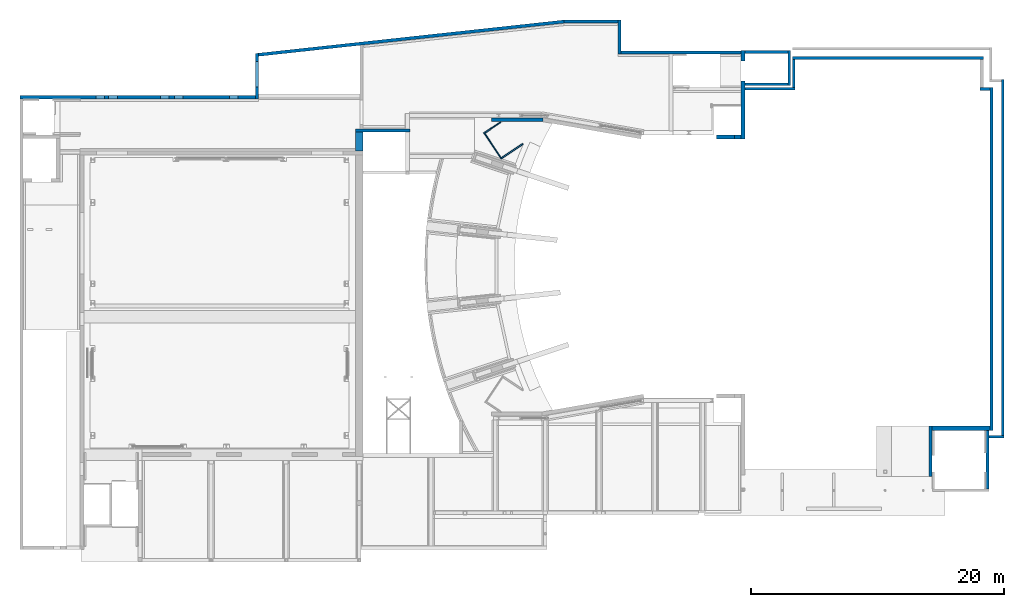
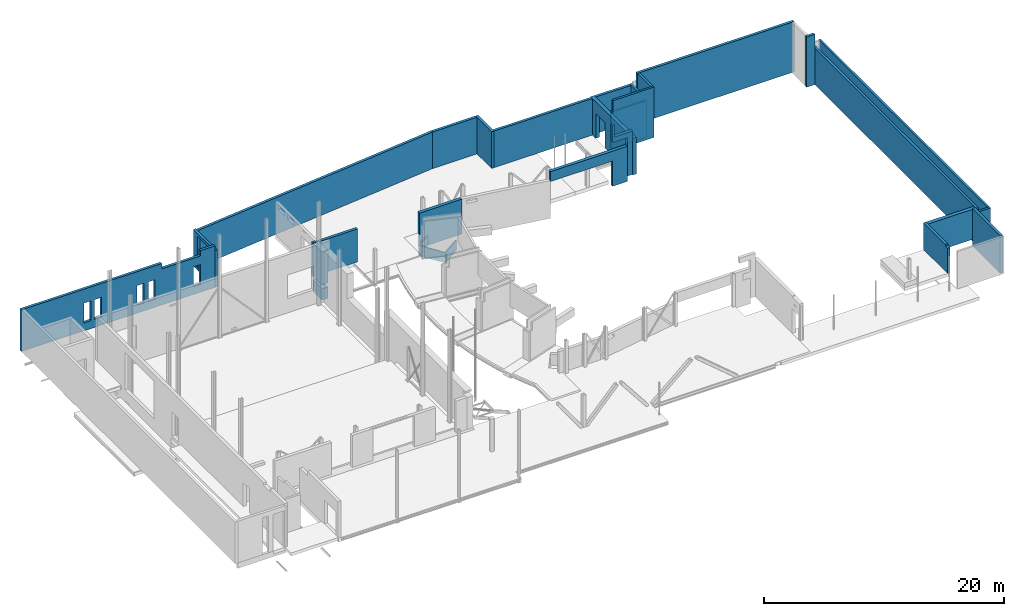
# One storey, part 28 of 37: 29 walls, 16 openings.
"""IFC2X3 building model written with IfcOpenShell, lengths in millimetres."""

from ifc_helpers import new_model, entity, si_unit, converted_unit, derived_unit, direction, frame, frame_2d, origin, origin_2d_with_axis, place, context, subcontext, project, spatial, polyline, rectangle, outline, extrude, clip, bounded_halfspace, material, layer, layer_set, layer_usage, type_object, element, save


model = new_model("IFC2X3")

# Units and contexts
model_context = context("Model", 3, precision=0.01, world=origin(), true_north=direction((6.12303176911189e-17, 1.0)))
body_context = subcontext(model_context, "Body", "Model", "MODEL_VIEW")
ifc_project = project(units=[si_unit("LENGTHUNIT", "METRE", prefix="MILLI"), si_unit("AREAUNIT", "SQUARE_METRE", prefix="MILLI"), si_unit("VOLUMEUNIT", "CUBIC_METRE"), converted_unit("PLANEANGLEUNIT", "DEGREE", entity("IfcRatioMeasure", 0.0174532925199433), si_unit("PLANEANGLEUNIT", "RADIAN"), dimensions=[0, 0, 0, 0, 0, 0, 0]), si_unit("MASSUNIT", "GRAM", prefix="KILO"), derived_unit("MASSDENSITYUNIT", [(si_unit("MASSUNIT", "GRAM", prefix="KILO"), 1), (si_unit("LENGTHUNIT", "METRE"), -3)]), derived_unit("MOMENTOFINERTIAUNIT", [(si_unit("LENGTHUNIT", "METRE"), 4)]), si_unit("TIMEUNIT", "SECOND"), si_unit("FREQUENCYUNIT", "HERTZ"), si_unit("THERMODYNAMICTEMPERATUREUNIT", "DEGREE_CELSIUS"), derived_unit("THERMALTRANSMITTANCEUNIT", [(si_unit("MASSUNIT", "GRAM", prefix="KILO"), 1), (si_unit("THERMODYNAMICTEMPERATUREUNIT", "KELVIN"), -1), (si_unit("TIMEUNIT", "SECOND"), -3)]), derived_unit("VOLUMETRICFLOWRATEUNIT", [(si_unit("LENGTHUNIT", "METRE"), 3), (si_unit("TIMEUNIT", "SECOND"), -1)]), si_unit("ELECTRICCURRENTUNIT", "AMPERE"), si_unit("ELECTRICVOLTAGEUNIT", "VOLT"), si_unit("POWERUNIT", "WATT"), si_unit("FORCEUNIT", "NEWTON", prefix="KILO"), si_unit("ILLUMINANCEUNIT", "LUX"), si_unit("LUMINOUSFLUXUNIT", "LUMEN"), si_unit("LUMINOUSINTENSITYUNIT", "CANDELA"), derived_unit("USERDEFINED", [(si_unit("MASSUNIT", "GRAM", prefix="KILO"), -1), (si_unit("LENGTHUNIT", "METRE"), -2), (si_unit("TIMEUNIT", "SECOND"), 3), (si_unit("LUMINOUSFLUXUNIT", "LUMEN"), 1)]), derived_unit("LINEARVELOCITYUNIT", [(si_unit("LENGTHUNIT", "METRE"), 1), (si_unit("TIMEUNIT", "SECOND"), -1)]), si_unit("PRESSUREUNIT", "PASCAL"), derived_unit("USERDEFINED", [(si_unit("LENGTHUNIT", "METRE"), -2), (si_unit("MASSUNIT", "GRAM", prefix="KILO"), 1), (si_unit("TIMEUNIT", "SECOND"), -2)]), derived_unit("LINEARFORCEUNIT", [(si_unit("MASSUNIT", "GRAM", prefix="KILO"), 1), (si_unit("LENGTHUNIT", "METRE"), 1), (si_unit("TIMEUNIT", "SECOND"), -2), (si_unit("LENGTHUNIT", "METRE"), -1)]), derived_unit("PLANARFORCEUNIT", [(si_unit("MASSUNIT", "GRAM", prefix="KILO"), 1), (si_unit("LENGTHUNIT", "METRE"), 1), (si_unit("TIMEUNIT", "SECOND"), -2), (si_unit("LENGTHUNIT", "METRE"), -2)])], contexts=[model_context])

# Site, building, storey
site_placement = place(None, origin())
site = spatial("IfcSite", under=ifc_project, at=site_placement, Name="Theater aan de Parade", CompositionType="ELEMENT")
building_placement = place(site_placement, origin())
building = spatial("IfcBuilding", under=site, at=building_placement, Name="Theater aan de Parade", CompositionType="ELEMENT")
storey_placement = place(building_placement, frame((0.0, 0.0, 5020.0)))
storey = spatial("IfcBuildingStorey", under=building, at=storey_placement, Name="01 eerste verdieping", CompositionType="ELEMENT", Elevation=5020.0)

# Wall, opening
ifc_material_1 = material(Name="00_PBT_MAT_beton t.p.g.")
ifc_layer_1 = layer(ifc_material_1, 300.0)
ifc_layer_set_1 = layer_set([ifc_layer_1], Name="Basic Wall:28_PBT_WA_beton t.p.g._d=300_bestaand")
ifc_layer_usage_1 = layer_usage(ifc_layer_set_1, "AXIS2", "NEGATIVE", 150.0)
wall_type_1 = type_object("IfcWallType", Name="Basic Wall:28_PBT_WA_beton t.p.g._d=300_bestaand", PredefinedType="STANDARD", material=ifc_layer_set_1)
wall_1_placement = place(storey_placement, frame((59441.4285714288, 42700.0, -550.0)))
wall_1 = element("IfcWallStandardCase", 1, at=wall_1_placement, inside=storey, type_object=wall_type_1, material=ifc_layer_usage_1, Name="Basic Wall:28_PBT_WA_beton t.p.g._d=300_bestaand", ObjectType="Basic Wall:28_PBT_WA_beton t.p.g._d=300_bestaand", context=body_context, shape_type="SweptSolid", body=[
    extrude(rectangle(XDim=7414.82752953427, YDim=300.000000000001, at=frame_2d((3707.41376476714, 0.0), x_axis=(-1.0, 0.0))), origin(), (0.0, 0.0, 1.0), 3580.00000000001),
])
opening_1_placement = place(wall_1_placement, origin())
element("IfcOpeningElement", 2, at=opening_1_placement, cuts=wall_1, Name="Basic Wall:28_PBT_WA_beton t.p.g._d=300_bestaand", ObjectType="Opening", context=body_context, shape_type="SweptSolid", body=[
    extrude(rectangle(XDim=2580.0, YDim=5978.57142857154, at=origin_2d_with_axis()), frame((2989.28571428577, 150.0, 1290.0), z_axis=(0.0, -1.0, 0.0), x_axis=(0.0, 0.0, 1.0)), (0.0, 0.0, 1.0), 300.0),
])

# Wall
ifc_layer_usage_2 = layer_usage(ifc_layer_set_1, "AXIS2", "NEGATIVE", 150.0)
wall_2_placement = place(storey_placement, frame((47610.9866342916, 44060.0, -1420.0)))
element("IfcWallStandardCase", 3, at=wall_2_placement, inside=storey, type_object=wall_type_1, material=ifc_layer_usage_2, Name="Basic Wall:28_PBT_WA_beton t.p.g._d=300_bestaand", ObjectType="Basic Wall:28_PBT_WA_beton t.p.g._d=300_bestaand", context=body_context, shape_type="SweptSolid", body=[
    extrude(rectangle(XDim=4085.06540892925, YDim=300.000000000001, at=frame_2d((2042.53270446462, 7.53175299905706e-13), x_axis=(-1.0, 0.0))), origin(), (0.0, 0.0, 1.0), 3550.0),
])

# Wall, openings
ifc_material_2 = material(Name="00_PBT_MAT_beton t.p.g._C30/37")
ifc_layer_2 = layer(ifc_material_2, 300.0)
ifc_layer_set_2 = layer_set([ifc_layer_2], Name="Basic Wall:28_PBT_WA_beton t.p.g._d=300_C30/37")
ifc_layer_usage_3 = layer_usage(ifc_layer_set_2, "AXIS2", "POSITIVE", -150.0)
wall_type_2 = type_object("IfcWallType", Name="Basic Wall:28_PBT_WA_beton t.p.g._d=300_C30/37", PredefinedType="STANDARD", material=ifc_layer_set_2)
wall_3_placement = place(storey_placement, frame((65420.0, 42700.0, 0.0)))
wall_3 = element("IfcWallStandardCase", 4, at=wall_3_placement, inside=storey, type_object=wall_type_2, material=ifc_layer_usage_3, Name="Basic Wall:28_PBT_WA_beton t.p.g._d=300_C30/37", ObjectType="Basic Wall:28_PBT_WA_beton t.p.g._d=300_C30/37", context=body_context, shape_type="SweptSolid", body=[
    extrude(rectangle(XDim=1936.25610096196, YDim=300.000000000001, at=frame_2d((968.128050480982, 0.0), x_axis=(-1.0, 0.0))), origin(), (0.0, 0.0, 1.0), 5610.00000000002),
])
opening_2_placement = place(wall_3_placement, origin())
element("IfcOpeningElement", 5, at=opening_2_placement, cuts=wall_3, Name="Basic Wall:28_PBT_WA_beton t.p.g._d=300_C30/37", ObjectType="Opening", context=body_context, shape_type="SweptSolid", body=[
    extrude(rectangle(XDim=1200.00000000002, YDim=1921.25610096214, at=frame_2d((-1.08002495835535e-12, 4.37694325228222e-12), x_axis=(1.0, 0.0))), frame((1150.62805048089, 150.0, 5010.0), z_axis=(0.0, -1.0, 0.0), x_axis=(0.0, 0.0, 1.0)), (0.0, 0.0, 1.0), 300.0),
])
opening_3_placement = place(wall_3_placement, origin())
element("IfcOpeningElement", 6, at=opening_3_placement, cuts=wall_3, Name="Basic Wall:28_PBT_WA_beton t.p.g._d=300_C30/37", ObjectType="Opening", context=body_context, shape_type="SweptSolid", body=[
    extrude(rectangle(XDim=3910.0, YDim=1436.25610096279, at=frame_2d((1.13686837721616e-12, 4.37694325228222e-12), x_axis=(1.0, 0.0))), frame((718.12805048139, 150.0, 1955.0), z_axis=(0.0, -1.0, 0.0), x_axis=(0.0, 0.0, -1.0)), (0.0, 0.0, 1.0), 300.0),
])

# Wall, opening
ifc_layer_3 = layer(ifc_material_2, 250.0)
ifc_layer_set_3 = layer_set([ifc_layer_3], Name="Basic Wall:28_PBT_WA_beton t.p.g._d=250_C30/37")
ifc_layer_usage_4 = layer_usage(ifc_layer_set_3, "AXIS2", "NEGATIVE", 125.0)
wall_type_3 = type_object("IfcWallType", Name="Basic Wall:28_PBT_WA_beton t.p.g._d=250_C30/37", PredefinedType="STANDARD", material=ifc_layer_set_3)
wall_4_placement = place(storey_placement, frame((29063.8975663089, 49337.9642801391, 0.0), z_axis=(0.0, 0.0, 1.0), x_axis=(0.0, -1.0, 0.0)))
wall_4 = element("IfcWallStandardCase", 7, at=wall_4_placement, inside=storey, type_object=wall_type_3, material=ifc_layer_usage_4, Name="Basic Wall:28_PBT_WA_beton t.p.g._d=250_C30/37", ObjectType="Basic Wall:28_PBT_WA_beton t.p.g._d=250_C30/37", context=body_context, shape_type="SweptSolid", body=[
    extrude(outline(polyline([(3614.96428013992, -125.0), (3614.96428013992, 125.0), (0.0, 125.0), (27.1269532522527, -125.0), (3614.96428013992, -125.0)])), origin(), (0.0, 0.0, 1.0), 3730.0),
])
opening_4_placement = place(wall_4_placement, origin())
element("IfcOpeningElement", 8, at=opening_4_placement, cuts=wall_4, Name="Basic Wall:28_PBT_WA_beton t.p.g._d=250_C30/37", ObjectType="Opening", context=body_context, shape_type="SweptSolid", body=[
    extrude(rectangle(XDim=3199.99999999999, YDim=2000.0, at=frame_2d((-4.32009983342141e-12, 0.0), x_axis=(0.0, 1.0))), frame((1672.77690123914, -125.0, 1850.0), z_axis=(0.0, 1.0, 0.0), x_axis=(1.0, 0.0, 0.0)), (0.0, 0.0, 1.0), 250.000000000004),
])

# Wall, openings
ifc_layer_usage_5 = layer_usage(ifc_layer_set_3, "AXIS2", "NEGATIVE", 125.0)
wall_5_placement = place(storey_placement, frame((28938.8975663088, 45848.0, 0.0), z_axis=(0.0, 0.0, 1.0), x_axis=(-1.0, 0.0, 0.0)))
wall_5 = element("IfcWallStandardCase", 9, at=wall_5_placement, inside=storey, type_object=wall_type_3, material=ifc_layer_usage_5, Name="Basic Wall:28_PBT_WA_beton t.p.g._d=250_C30/37", ObjectType="Basic Wall:28_PBT_WA_beton t.p.g._d=250_C30/37", context=body_context, shape_type="SweptSolid", body=[
    extrude(rectangle(XDim=18634.7850125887, YDim=249.999999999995, at=frame_2d((9317.39250629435, -4.21351842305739e-12), x_axis=(-1.0, 0.0))), origin(), (0.0, 0.0, 1.0), 4235.0),
])
opening_5_placement = place(wall_5_placement, origin())
element("IfcOpeningElement", 10, at=opening_5_placement, cuts=wall_5, Name="Basic Wall:28_PBT_WA_beton t.p.g._d=250_C30/37", ObjectType="Opening", context=body_context, shape_type="SweptSolid", body=[
    extrude(rectangle(XDim=2199.99999999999, YDim=3725.00000000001, at=frame_2d((-2.1600499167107e-12, 1.02318153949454e-12), x_axis=(0.0, 1.0))), frame((3252.6679143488, -125.0, 4800.0), z_axis=(0.0, 1.0, 0.0), x_axis=(1.0, 0.0, 0.0)), (0.0, 0.0, 1.0), 249.999999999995),
])
opening_6_placement = place(wall_5_placement, origin())
element("IfcOpeningElement", 11, at=opening_6_placement, cuts=wall_5, Name="Basic Wall:28_PBT_WA_beton t.p.g._d=250_C30/37", ObjectType="Opening", context=body_context, shape_type="SweptSolid", body=[
    extrude(rectangle(XDim=1999.99999999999, YDim=680.000000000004, at=frame_2d((5.6843418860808e-13, -1.08002495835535e-12), x_axis=(1.0, 0.0))), frame((11273.7199205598, -125.0, 1810.0), z_axis=(0.0, 1.0, 0.0), x_axis=(0.0, 0.0, -1.0)), (0.0, 0.0, 1.0), 249.999999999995),
])
opening_7_placement = place(wall_5_placement, origin())
element("IfcOpeningElement", 12, at=opening_7_placement, cuts=wall_5, Name="Basic Wall:28_PBT_WA_beton t.p.g._d=250_C30/37", ObjectType="Opening", context=body_context, shape_type="SweptSolid", body=[
    extrude(rectangle(XDim=1999.99999999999, YDim=680.000000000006, at=frame_2d((5.6843418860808e-13, 0.0), x_axis=(1.0, 0.0))), frame((12274.0174133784, -125.0, 1810.0), z_axis=(0.0, 1.0, 0.0), x_axis=(0.0, 0.0, -1.0)), (0.0, 0.0, 1.0), 249.999999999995),
])
opening_8_placement = place(wall_5_placement, origin())
element("IfcOpeningElement", 13, at=opening_8_placement, cuts=wall_5, Name="Basic Wall:28_PBT_WA_beton t.p.g._d=250_C30/37", ObjectType="Opening", context=body_context, shape_type="SweptSolid", body=[
    extrude(rectangle(XDim=1999.99999999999, YDim=660.000000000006, at=frame_2d((5.6843418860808e-13, 0.0), x_axis=(1.0, 0.0))), frame((7174.01932581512, -125.0, 1810.0), z_axis=(0.0, 1.0, 0.0), x_axis=(0.0, 0.0, -1.0)), (0.0, 0.0, 1.0), 249.999999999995),
])
opening_9_placement = place(wall_5_placement, origin())
element("IfcOpeningElement", 14, at=opening_9_placement, cuts=wall_5, Name="Basic Wall:28_PBT_WA_beton t.p.g._d=250_C30/37", ObjectType="Opening", context=body_context, shape_type="SweptSolid", body=[
    extrude(rectangle(XDim=1999.99999999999, YDim=660.000000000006, at=frame_2d((5.6843418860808e-13, 0.0), x_axis=(1.0, 0.0))), frame((6082.73582989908, -125.0, 1810.0), z_axis=(0.0, 1.0, 0.0), x_axis=(0.0, 0.0, -1.0)), (0.0, 0.0, 1.0), 249.999999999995),
])
opening_10_placement = place(wall_5_placement, origin())
element("IfcOpeningElement", 15, at=opening_10_placement, cuts=wall_5, Name="Basic Wall:28_PBT_WA_beton t.p.g._d=250_C30/37", ObjectType="Opening", context=body_context, shape_type="SweptSolid", body=[
    extrude(rectangle(XDim=1999.99999999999, YDim=660.000000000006, at=frame_2d((5.6843418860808e-13, 0.0), x_axis=(1.0, 0.0))), frame((1720.81234104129, -125.0, 1810.0), z_axis=(0.0, 1.0, 0.0), x_axis=(0.0, 0.0, -1.0)), (0.0, 0.0, 1.0), 249.999999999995),
])

# Walls
ifc_layer_usage_6 = layer_usage(ifc_layer_set_3, "AXIS2", "NEGATIVE", 125.0)
wall_6_placement = place(storey_placement, frame((53371.6537622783, 51836.2485492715, -80.0), z_axis=(0.0, 0.0, 1.0), x_axis=(-0.994164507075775, -0.107874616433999, 0.0)))
element("IfcWallStandardCase", 16, at=wall_6_placement, inside=storey, type_object=wall_type_3, material=ifc_layer_usage_6, Name="Basic Wall:28_PBT_WA_beton t.p.g._d=250_C30/37", ObjectType="Basic Wall:28_PBT_WA_beton t.p.g._d=250_C30/37", context=body_context, shape_type="SweptSolid", body=[
    extrude(outline(polyline([(24311.1393505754, -125.0), (24338.2663038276, 125.0), (16276.2599590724, 125.0), (16024.7925226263, 125.0), (13.5237860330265, 125.0), (0.0, -125.0), (24311.1393505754, -125.0)])), origin(), (0.0, 0.0, 1.0), 3730.0),
])
ifc_layer_usage_7 = layer_usage(ifc_layer_set_3, "AXIS2", "POSITIVE", -125.0)
wall_7_placement = place(storey_placement, frame((82375.0084217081, 19810.0002435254, 900.0), z_axis=(0.0, 0.0, 1.0), x_axis=(0.0, -1.0, 0.0)))
element("IfcWallStandardCase", 17, at=wall_7_placement, inside=storey, type_object=wall_type_3, material=ifc_layer_usage_7, Name="Basic Wall:28_PBT_WA_beton t.p.g._d=250_C30/37", ObjectType="Basic Wall:28_PBT_WA_beton t.p.g._d=250_C30/37", context=body_context, shape_type="Clipping", body=[
    clip(clip(extrude(rectangle(XDim=4000.00414805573, YDim=250.000000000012, at=frame_2d((2000.00207402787, 4.19220214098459e-13), x_axis=(-1.0, 0.0))), origin(), (0.0, 0.0, 1.0), 2740.0), bounded_halfspace(frame((3613.00024352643, 125.0, 2550.0), z_axis=(0.0, 0.0, -1.0), x_axis=(0.0, -1.0, 0.0)), True, frame((3613.00024352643, 125.0, 2550.0), z_axis=(0.0, 0.0, -1.0), x_axis=(0.0, -1.0, 0.0)), polyline([(0.0, 0.0), (0.0, -387.003904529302), (25.0, -387.003904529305), (225.0, -387.003904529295), (250.0, -387.003904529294), (250.0, 0.0), (0.0, 0.0)]))), bounded_halfspace(frame((3613.00024352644, -125.0, 2550.0), z_axis=(-1.0, 0.0, 0.0), x_axis=(0.0, 0.0, 1.0)), True, frame((3613.00024352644, -125.0, 2550.0), z_axis=(-1.0, 0.0, 0.0), x_axis=(0.0, 0.0, 1.0)), polyline([(0.0, 0.0), (190.0, 0.0), (190.0, 250.0), (0.0, 250.0), (0.0, 0.0)]))),
])
ifc_layer_usage_8 = layer_usage(ifc_layer_set_3, "AXIS2", "POSITIVE", -125.0)
wall_8_placement = place(storey_placement, frame((86555.1683175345, 48947.0, -90.0), z_axis=(0.0, 0.0, 1.0), x_axis=(-1.0, 0.0, 0.0)))
element("IfcWallStandardCase", 18, at=wall_8_placement, inside=storey, type_object=wall_type_3, material=ifc_layer_usage_8, Name="Basic Wall:28_PBT_WA_beton t.p.g._d=250_C30/37", ObjectType="Basic Wall:28_PBT_WA_beton t.p.g._d=250_C30/37", context=body_context, shape_type="SweptSolid", body=[
    extrude(rectangle(XDim=15098.1683175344, YDim=249.999999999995, at=frame_2d((7549.08415876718, -5.47117906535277e-13), x_axis=(-1.0, 0.0))), origin(), (0.0, 0.0, 1.0), 5130.0),
])
ifc_layer_usage_9 = layer_usage(ifc_layer_set_3, "AXIS2", "POSITIVE", -125.0)
wall_9_placement = place(storey_placement, frame((87096.0, 46486.8723406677, -90.0), z_axis=(0.0, 0.0, 1.0), x_axis=(-1.0, 0.0, 0.0)))
element("IfcWallStandardCase", 19, at=wall_9_placement, inside=storey, type_object=wall_type_3, material=ifc_layer_usage_9, Name="Basic Wall:28_PBT_WA_beton t.p.g._d=250_C30/37", ObjectType="Basic Wall:28_PBT_WA_beton t.p.g._d=250_C30/37", context=body_context, shape_type="SweptSolid", body=[
    extrude(rectangle(XDim=790.831682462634, YDim=249.999999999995, at=frame_2d((395.415841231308, -1.18660636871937e-12), x_axis=(-1.0, 0.0))), origin(), (0.0, 0.0, 1.0), 5130.0),
])
ifc_layer_usage_10 = layer_usage(ifc_layer_set_3, "AXIS2", "NEGATIVE", 125.0)
wall_10_placement = place(storey_placement, frame((57762.0315633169, 49261.9979908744, -80.0), z_axis=(0.0, 0.0, 1.0), x_axis=(0.0, 1.0, 0.0)))
element("IfcWallStandardCase", 20, at=wall_10_placement, inside=storey, type_object=wall_type_3, material=ifc_layer_usage_10, Name="Basic Wall:28_PBT_WA_beton t.p.g._d=250_C30/37", ObjectType="Basic Wall:28_PBT_WA_beton t.p.g._d=250_C30/37", context=body_context, shape_type="SweptSolid", body=[
    extrude(rectangle(XDim=2698.52112178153, YDim=249.999999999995, at=frame_2d((1349.26056089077, 0.0), x_axis=(-1.0, 0.0))), origin(), (0.0, 0.0, 1.0), 3730.0),
])
ifc_layer_usage_11 = layer_usage(ifc_layer_set_3, "AXIS2", "POSITIVE", -125.0)
wall_11_placement = place(storey_placement, frame((67356.2561009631, 49386.9979908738, -80.0), z_axis=(0.0, 0.0, 1.0), x_axis=(-1.0, 0.0, 0.0)))
element("IfcWallStandardCase", 21, at=wall_11_placement, inside=storey, type_object=wall_type_3, material=ifc_layer_usage_11, Name="Basic Wall:28_PBT_WA_beton t.p.g._d=250_C30/37", ObjectType="Basic Wall:28_PBT_WA_beton t.p.g._d=250_C30/37", context=body_context, shape_type="SweptSolid", body=[
    extrude(rectangle(XDim=9469.22453764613, YDim=249.999999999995, at=frame_2d((4734.61226882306, -2.00373051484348e-12), x_axis=(-1.0, 0.0))), origin(), (0.0, 0.0, 1.0), 3730.0),
])
ifc_layer_usage_12 = layer_usage(ifc_layer_set_3, "AXIS2", "NEGATIVE", 125.0)
wall_12_placement = place(storey_placement, frame((86891.0, 19460.0002435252, -80.0), z_axis=(0.0, 0.0, 1.0), x_axis=(0.0, -1.0, 0.0)))
element("IfcWallStandardCase", 22, at=wall_12_placement, inside=storey, type_object=wall_type_3, material=ifc_layer_usage_12, Name="Basic Wall:28_PBT_WA_beton t.p.g._d=250_C30/37", ObjectType="Basic Wall:28_PBT_WA_beton t.p.g._d=250_C30/37", context=body_context, shape_type="SweptSolid", body=[
    extrude(rectangle(XDim=4610.0002435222, YDim=250.000000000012, at=frame_2d((2305.0001217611, 1.49213974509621e-13), x_axis=(-1.0, 0.0))), origin(), (0.0, 0.0, 1.0), 3810.0),
])
ifc_layer_usage_13 = layer_usage(ifc_layer_set_3, "AXIS2", "NEGATIVE", 125.0)
wall_13_placement = place(storey_placement, frame((57637.0315633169, 51835.519112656, -80.0), z_axis=(0.0, 0.0, 1.0), x_axis=(-1.0, 0.0, 0.0)))
element("IfcWallStandardCase", 23, at=wall_13_placement, inside=storey, type_object=wall_type_3, material=ifc_layer_usage_13, Name="Basic Wall:28_PBT_WA_beton t.p.g._d=250_C30/37", ObjectType="Basic Wall:28_PBT_WA_beton t.p.g._d=250_C30/37", context=body_context, shape_type="SweptSolid", body=[
    extrude(outline(polyline([(4278.86212809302, -125.0), (4265.33834205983, 125.0), (0.0, 125.0), (0.0, -125.0), (4278.86212809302, -125.0)])), origin(), (0.0, 0.0, 1.0), 3730.0),
])
ifc_layer_usage_14 = layer_usage(ifc_layer_set_3, "AXIS2", "POSITIVE", -125.0)
wall_14_placement = place(storey_placement, frame((36853.8581300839, 43225.0, -80.0)))
element("IfcWallStandardCase", 24, at=wall_14_placement, inside=storey, type_object=wall_type_3, material=ifc_layer_usage_14, Name="Basic Wall:28_PBT_WA_beton t.p.g._d=250_C30/37", ObjectType="Basic Wall:28_PBT_WA_beton t.p.g._d=250_C30/37", context=body_context, shape_type="Clipping", body=[
    clip(clip(clip(extrude(rectangle(XDim=4313.99999741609, YDim=249.999999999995, at=frame_2d((2156.99999870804, 7.95807864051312e-13), x_axis=(-1.0, 0.0))), origin(), (0.0, 0.0, 1.0), 3410.0), bounded_halfspace(frame((0.0, 125.0, 3410.0), z_axis=(0.0, 0.0, -1.0), x_axis=(-1.0, 0.0, 0.0)), True, frame((0.0, 125.0, 3410.0), z_axis=(0.0, 0.0, -1.0), x_axis=(-1.0, 0.0, 0.0)), polyline([(0.0, 0.0), (-350.0, 0.0), (-350.0, -250.0), (0.0, -250.0), (0.0, 0.0)]))), bounded_halfspace(frame((350.0, 125.0, 3350.0), z_axis=(0.0, 0.0, -1.0), x_axis=(1.0, 0.0, 0.0)), True, frame((350.0, 125.0, 3350.0), z_axis=(0.0, 0.0, -1.0), x_axis=(1.0, 0.0, 0.0)), polyline([(0.0, 0.0), (250.0, 0.0), (3610.0, 0.0), (3964.0, 0.0), (3964.0, 250.0), (3610.0, 250.0), (0.0, 250.0), (0.0, 0.0)]))), bounded_halfspace(frame((350.0, -125.0, 3350.0), z_axis=(-1.0, 0.0, 0.0), x_axis=(0.0, 0.0, 1.0)), True, frame((350.0, -125.0, 3350.0), z_axis=(-1.0, 0.0, 0.0), x_axis=(0.0, 0.0, 1.0)), polyline([(0.0, 0.0), (60.0, 0.0), (60.0, 250.0), (0.0, 250.0), (0.0, 0.0)]))),
])
ifc_layer_usage_15 = layer_usage(ifc_layer_set_3, "AXIS2", "NEGATIVE", 125.0)
wall_15_placement = place(storey_placement, frame((71107.0, 49437.0, -80.0), z_axis=(0.0, 0.0, 1.0), x_axis=(-1.0, 0.0, 0.0)))
element("IfcWallStandardCase", 25, at=wall_15_placement, inside=storey, type_object=wall_type_3, material=ifc_layer_usage_15, Name="Basic Wall:28_PBT_WA_beton t.p.g._d=250_C30/37", ObjectType="Basic Wall:28_PBT_WA_beton t.p.g._d=250_C30/37", context=body_context, shape_type="SweptSolid", body=[
    extrude(rectangle(XDim=3400.74389903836, YDim=249.999999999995, at=frame_2d((1700.37194951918, 1.62003743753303e-12), x_axis=(-1.0, 0.0))), origin(), (0.0, 0.0, 1.0), 3730.0),
])
ifc_layer_4 = layer(ifc_material_2, 600.0)
ifc_layer_set_4 = layer_set([ifc_layer_4], Name="Basic Wall:28_PBT_WA_beton t.p.g._d=600_C30/37")
ifc_layer_usage_16 = layer_usage(ifc_layer_set_4, "AXIS2", "NEGATIVE", 300.0)
wall_type_4 = type_object("IfcWallType", Name="Basic Wall:28_PBT_WA_beton t.p.g._d=600_C30/37", PredefinedType="STANDARD", material=ifc_layer_set_4)
wall_16_placement = place(storey_placement, frame((37153.8581300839, 43100.0, -1550.0), z_axis=(0.0, 0.0, 1.0), x_axis=(0.0, -1.0, 0.0)))
element("IfcWallStandardCase", 26, at=wall_16_placement, inside=storey, type_object=wall_type_4, material=ifc_layer_usage_16, Name="Basic Wall:28_PBT_WA_beton t.p.g._d=600_C30/37", ObjectType="Basic Wall:28_PBT_WA_beton t.p.g._d=600_C30/37", context=body_context, shape_type="SweptSolid", body=[
    extrude(rectangle(XDim=1526.69167290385, YDim=600.000000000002, at=frame_2d((763.345836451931, 9.66338120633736e-13), x_axis=(-1.0, 0.0))), origin(), (0.0, 0.0, 1.0), 1150.0),
])
ifc_layer_usage_17 = layer_usage(ifc_layer_set_4, "AXIS2", "NEGATIVE", 300.0)
wall_17_placement = place(storey_placement, frame((37153.8581300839, 43100.0, 0.0), z_axis=(0.0, 0.0, 1.0), x_axis=(0.0, -1.0, 0.0)))
element("IfcWallStandardCase", 27, at=wall_17_placement, inside=storey, type_object=wall_type_4, material=ifc_layer_usage_17, Name="Basic Wall:28_PBT_WA_beton t.p.g._d=600_C30/37", ObjectType="Basic Wall:28_PBT_WA_beton t.p.g._d=600_C30/37", context=body_context, shape_type="SweptSolid", body=[
    extrude(rectangle(XDim=1526.69167290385, YDim=600.000000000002, at=frame_2d((763.345836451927, 8.5265128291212e-14), x_axis=(-1.0, 0.0))), origin(), (0.0, 0.0, 1.0), 3330.0),
])
ifc_layer_5 = layer(ifc_material_2, 200.0)
ifc_layer_set_5 = layer_set([ifc_layer_5], Name="Basic Wall:28_PBT_WA_beton t.p.g._d=200_C30/37")
ifc_layer_usage_18 = layer_usage(ifc_layer_set_5, "AXIS2", "NEGATIVE", 100.0)
wall_type_5 = type_object("IfcWallType", Name="Basic Wall:28_PBT_WA_beton t.p.g._d=200_C30/37", PredefinedType="STANDARD", material=ifc_layer_set_5)
wall_18_placement = place(storey_placement, frame((71207.0, 46761.8723406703, -80.0), z_axis=(0.0, 0.0, 1.0), x_axis=(0.0, 1.0, 0.0)))
element("IfcWallStandardCase", 28, at=wall_18_placement, inside=storey, type_object=wall_type_5, material=ifc_layer_usage_18, Name="Basic Wall:28_PBT_WA_beton t.p.g._d=200_C30/37", ObjectType="Basic Wall:28_PBT_WA_beton t.p.g._d=200_C30/37", context=body_context, shape_type="SweptSolid", body=[
    extrude(rectangle(XDim=2800.12765932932, YDim=200.000000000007, at=frame_2d((1400.06382966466, 0.0), x_axis=(-1.0, 0.0))), origin(), (0.0, 0.0, 1.0), 3730.0),
])
ifc_layer_usage_19 = layer_usage(ifc_layer_set_5, "AXIS2", "POSITIVE", -100.0)
wall_19_placement = place(storey_placement, frame((71107.0, 46861.8723406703, -80.0), z_axis=(0.0, 0.0, 1.0), x_axis=(-1.0, 0.0, 0.0)))
element("IfcWallStandardCase", 29, at=wall_19_placement, inside=storey, type_object=wall_type_5, material=ifc_layer_usage_19, Name="Basic Wall:28_PBT_WA_beton t.p.g._d=200_C30/37", ObjectType="Basic Wall:28_PBT_WA_beton t.p.g._d=200_C30/37", context=body_context, shape_type="SweptSolid", body=[
    extrude(rectangle(XDim=3400.74389903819, YDim=200.000000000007, at=frame_2d((1700.3719495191, -1.61293201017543e-12), x_axis=(-1.0, 0.0))), origin(), (0.0, 0.0, 1.0), 3730.0),
])
ifc_layer_usage_20 = layer_usage(ifc_layer_set_5, "AXIS2", "POSITIVE", -100.0)
wall_20_placement = place(storey_placement, frame((71657.0, 46511.8723406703, -80.0), z_axis=(0.0, 0.0, 1.0), x_axis=(-1.0, 0.0, 0.0)))
element("IfcWallStandardCase", 30, at=wall_20_placement, inside=storey, type_object=wall_type_5, material=ifc_layer_usage_20, Name="Basic Wall:28_PBT_WA_beton t.p.g._d=200_C30/37", ObjectType="Basic Wall:28_PBT_WA_beton t.p.g._d=200_C30/37", context=body_context, shape_type="SweptSolid", body=[
    extrude(rectangle(XDim=3950.74389903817, YDim=200.000000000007, at=frame_2d((1975.37194951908, -4.83169060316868e-13), x_axis=(-1.0, 0.0))), origin(), (0.0, 0.0, 1.0), 5120.0),
])

# Wall, opening
ifc_layer_usage_21 = layer_usage(ifc_layer_set_5, "AXIS2", "NEGATIVE", 100.0)
wall_21_placement = place(storey_placement, frame((71557.0, 46611.8723406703, -80.0), z_axis=(0.0, 0.0, 1.0), x_axis=(0.0, 1.0, 0.0)))
wall_21 = element("IfcWallStandardCase", 31, at=wall_21_placement, inside=storey, type_object=wall_type_5, material=ifc_layer_usage_21, Name="Basic Wall:28_PBT_WA_beton t.p.g._d=200_C30/37", ObjectType="Basic Wall:28_PBT_WA_beton t.p.g._d=200_C30/37", context=body_context, shape_type="SweptSolid", body=[
    extrude(rectangle(XDim=2210.12765932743, YDim=200.000000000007, at=frame_2d((1105.06382966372, 1.35713662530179e-12), x_axis=(-1.0, 0.0))), origin(), (0.0, 0.0, 1.0), 5120.0),
])
opening_11_placement = place(wall_21_placement, origin())
element("IfcOpeningElement", 32, at=opening_11_placement, cuts=wall_21, Name="Basic Wall:28_PBT_WA_beton t.p.g._d=200_C30/37", ObjectType="Opening", context=body_context, shape_type="SweptSolid", body=[
    extrude(rectangle(XDim=2299.99999999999, YDim=1580.0, at=origin_2d_with_axis()), frame((1315.0, -100.0, 6270.0), z_axis=(0.0, 1.0, 0.0), x_axis=(0.0, 0.0, -1.0)), (0.0, 0.0, 1.0), 200.000000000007),
])

# Walls
ifc_material_3 = material(Name="00_PBT_MAT_beton prefab")
ifc_layer_6 = layer(ifc_material_3, 200.0)
ifc_layer_set_6 = layer_set([ifc_layer_6], Name="Basic Wall:28_PBT_WA_beton prefab_d=200")
ifc_layer_usage_22 = layer_usage(ifc_layer_set_6, "AXIS2", "POSITIVE", -100.0)
wall_type_6 = type_object("IfcWallType", Name="Basic Wall:28_PBT_WA_beton prefab_d=200", PredefinedType="STANDARD", material=ifc_layer_set_6)
wall_22_placement = place(storey_placement, frame((87016.0, 18989.9999114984, -80.0)))
element("IfcWallStandardCase", 33, at=wall_22_placement, inside=storey, type_object=wall_type_6, material=ifc_layer_usage_22, Name="Basic Wall:28_PBT_WA_beton prefab_d=200", ObjectType="Basic Wall:28_PBT_WA_beton prefab_d=200", context=body_context, shape_type="Clipping", body=[
    clip(clip(extrude(rectangle(XDim=1170.00000000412, YDim=200.000000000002, at=frame_2d((585.000000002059, -1.20792265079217e-13), x_axis=(-1.0, 0.0))), origin(), (0.0, 0.0, 1.0), 3720.0), bounded_halfspace(frame((1170.0, -100.0, 0.0), z_axis=(0.0, 0.0, 1.0), x_axis=(0.0, 1.0, 0.0)), True, frame((1170.0, -100.0, 0.0), z_axis=(0.0, 0.0, 1.0), x_axis=(0.0, 1.0, 0.0)), polyline([(0.0, 0.0), (200.0, 0.0), (200.0, 200.0), (200.0, 1170.0), (0.0, 1170.0), (0.0, 0.0)]))), bounded_halfspace(frame((0.0, -100.0, 3720.0), z_axis=(0.0, 0.0, -1.0), x_axis=(0.0, 1.0, 0.0)), True, frame((0.0, -100.0, 3720.0), z_axis=(0.0, 0.0, -1.0), x_axis=(0.0, 1.0, 0.0)), polyline([(0.0, 0.0), (200.0, 0.0), (200.0, 970.0), (200.0, 1170.0), (0.0, 1170.0), (0.0, 0.0)]))),
])
ifc_layer_usage_23 = layer_usage(ifc_layer_set_6, "AXIS2", "NEGATIVE", 100.0)
wall_23_placement = place(storey_placement, frame((88086.0, 47270.8149236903, -80.0), z_axis=(0.0, 0.0, 1.0), x_axis=(0.0, -1.0, 0.0)))
element("IfcWallStandardCase", 34, at=wall_23_placement, inside=storey, type_object=wall_type_6, material=ifc_layer_usage_23, Name="Basic Wall:28_PBT_WA_beton prefab_d=200", ObjectType="Basic Wall:28_PBT_WA_beton prefab_d=200", context=body_context, shape_type="Clipping", body=[
    clip(clip(extrude(rectangle(XDim=28180.815012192, YDim=199.999999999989, at=frame_2d((14090.407506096, -2.63611354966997e-12), x_axis=(-1.0, 0.0))), origin(), (0.0, 0.0, 1.0), 3720.0), bounded_halfspace(frame((28180.815012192, -100.0, 0.0), z_axis=(0.0, 0.0, 1.0), x_axis=(0.0, 1.0, 0.0)), True, frame((28180.815012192, -100.0, 0.0), z_axis=(0.0, 0.0, 1.0), x_axis=(0.0, 1.0, 0.0)), polyline([(0.0, 0.0), (200.0, 0.0), (200.0, 28180.815012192), (0.0, 28180.815012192), (0.0, 27980.815012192), (0.0, 0.0)]))), bounded_halfspace(frame((0.0, -100.0, 3720.0), z_axis=(0.0, 0.0, -1.0), x_axis=(0.0, 1.0, 0.0)), True, frame((0.0, -100.0, 3720.0), z_axis=(0.0, 0.0, -1.0), x_axis=(0.0, 1.0, 0.0)), polyline([(0.0, 0.0), (200.0, 0.0), (200.0, 28180.815012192), (0.0, 28180.815012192), (0.0, 200.0), (0.0, 0.0)]))),
])
ifc_material_4 = material(Name="00_PBT_MAT_beton t.p.g._C40/50")
ifc_layer_7 = layer(ifc_material_4, 230.0)
ifc_layer_set_7 = layer_set([ifc_layer_7], Name="Basic Wall:28_PBT_WA_beton t.p.g._d=230_C40/50")
ifc_layer_usage_24 = layer_usage(ifc_layer_set_7, "AXIS2", "NEGATIVE", 115.0)
wall_type_7 = type_object("IfcWallType", Name="Basic Wall:28_PBT_WA_beton t.p.g._d=230_C40/50", PredefinedType="STANDARD", material=ifc_layer_set_7)
wall_24_placement = place(storey_placement, frame((87211.0, 46611.8723406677, -90.0), z_axis=(0.0, 0.0, 1.0), x_axis=(0.0, -1.0, 0.0)))
element("IfcWallStandardCase", 35, at=wall_24_placement, inside=storey, type_object=wall_type_7, material=ifc_layer_usage_24, Name="Basic Wall:28_PBT_WA_beton t.p.g._d=230_C40/50", ObjectType="Basic Wall:28_PBT_WA_beton t.p.g._d=230_C40/50", context=body_context, shape_type="Clipping", body=[
    clip(clip(extrude(rectangle(XDim=27151.8720971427, YDim=230.000000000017, at=frame_2d((13575.9360485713, 3.41060513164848e-12), x_axis=(-1.0, 0.0))), origin(), (0.0, 0.0, 1.0), 3740.0), bounded_halfspace(frame((250.0, 115.0, 3730.0), z_axis=(0.0, 0.0, -1.0), x_axis=(0.0, 1.0, 0.0)), True, frame((250.0, 115.0, 3730.0), z_axis=(0.0, 0.0, -1.0), x_axis=(0.0, 1.0, 0.0)), polyline([(0.0, 0.0), (0.0, 26901.8720971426), (-230.0, 26901.8720971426), (-230.0, 26551.8720971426), (-230.0, 0.0), (0.0, 0.0)]))), bounded_halfspace(frame((250.0, -115.0, 3730.0), z_axis=(1.0, 0.0, 0.0), x_axis=(0.0, 1.0, 0.0)), False, frame((250.0, -115.0, 3730.0), z_axis=(1.0, 0.0, 0.0), x_axis=(0.0, 1.0, 0.0)), polyline([(0.0, 0.0), (230.0, 0.0), (230.0, 10.0), (0.0, 10.0), (0.0, 0.0)]))),
])

# Wall, openings
ifc_layer_8 = layer(ifc_material_2, 350.0)
ifc_layer_set_8 = layer_set([ifc_layer_8], Name="Basic Wall:28_PBT_WA_beton t.p.g._d=350_C30/37")
ifc_layer_usage_25 = layer_usage(ifc_layer_set_8, "AXIS2", "NEGATIVE", 175.0)
wall_type_8 = type_object("IfcWallType", Name="Basic Wall:28_PBT_WA_beton t.p.g._d=350_C30/37", PredefinedType="STANDARD", material=ifc_layer_set_8)
wall_25_placement = place(storey_placement, frame((67531.2561009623, 42550.0, -80.0), z_axis=(0.0, 0.0, 1.0), x_axis=(0.0, 1.0, 0.0)))
wall_25 = element("IfcWallStandardCase", 36, at=wall_25_placement, inside=storey, type_object=wall_type_8, material=ifc_layer_usage_25, Name="Basic Wall:28_PBT_WA_beton t.p.g._d=350_C30/37", ObjectType="Basic Wall:28_PBT_WA_beton t.p.g._d=350_C30/37", context=body_context, shape_type="SweptSolid", body=[
    extrude(rectangle(XDim=7011.9999999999, YDim=350.000000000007, at=frame_2d((3505.99999999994, -5.6843418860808e-13), x_axis=(-1.0, 0.0))), origin(), (0.0, 0.0, 1.0), 3730.0),
])
opening_12_placement = place(wall_25_placement, origin())
element("IfcOpeningElement", 37, at=opening_12_placement, cuts=wall_25, Name="Basic Wall:28_PBT_WA_beton t.p.g._d=350_C30/37", ObjectType="Opening", context=body_context, shape_type="SweptSolid", body=[
    extrude(rectangle(XDim=2529.99999999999, YDim=1580.0, at=frame_2d((0.0, 0.0), x_axis=(0.0, 1.0))), frame((5376.87234067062, -175.0, 1265.0), z_axis=(0.0, 1.0, 0.0), x_axis=(1.0, 0.0, 0.0)), (0.0, 0.0, 1.0), 350.000000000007),
])
opening_13_placement = place(wall_25_placement, origin())
element("IfcOpeningElement", 38, at=opening_13_placement, cuts=wall_25, Name="Basic Wall:28_PBT_WA_beton t.p.g._d=350_C30/37", ObjectType="Opening", context=body_context, shape_type="SweptSolid", body=[
    extrude(rectangle(XDim=2499.99999999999, YDim=1054.0, at=frame_2d((0.0, 1.02318153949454e-12), x_axis=(0.0, 1.0))), frame((3229.51542200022, -175.0, 4980.0), z_axis=(0.0, 1.0, 0.0), x_axis=(1.0, 0.0, 0.0)), (0.0, 0.0, 1.0), 350.000000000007),
])
opening_14_placement = place(wall_25_placement, origin())
element("IfcOpeningElement", 39, at=opening_14_placement, cuts=wall_25, Name="Basic Wall:28_PBT_WA_beton t.p.g._d=350_C30/37", ObjectType="Opening", context=body_context, shape_type="SweptSolid", body=[
    extrude(rectangle(XDim=2499.99999999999, YDim=1054.00000000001, at=frame_2d((-1.08002495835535e-12, -1.02318153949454e-12), x_axis=(0.0, 1.0))), frame((-27116.8613182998, -175.0, 1250.0), z_axis=(0.0, 1.0, 0.0), x_axis=(1.0, 0.0, 0.0)), (0.0, 0.0, 1.0), 350.000000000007),
])
opening_15_placement = place(wall_25_placement, origin())
element("IfcOpeningElement", 40, at=opening_15_placement, cuts=wall_25, Name="Basic Wall:28_PBT_WA_beton t.p.g._d=350_C30/37", ObjectType="Opening", context=body_context, shape_type="SweptSolid", body=[
    extrude(rectangle(XDim=2589.99999999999, YDim=1900.0, at=frame_2d((-1.08002495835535e-12, 4.54747350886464e-13), x_axis=(0.0, 1.0))), frame((-27539.8613182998, -175.0, 5025.0), z_axis=(0.0, 1.0, 0.0), x_axis=(1.0, 0.0, 0.0)), (0.0, 0.0, 1.0), 350.000000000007),
])
opening_16_placement = place(wall_25_placement, origin())
element("IfcOpeningElement", 41, at=opening_16_placement, cuts=wall_25, Name="Basic Wall:28_PBT_WA_beton t.p.g._d=350_C30/37", ObjectType="Opening", context=body_context, shape_type="SweptSolid", body=[
    extrude(rectangle(XDim=149.999999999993, YDim=300.000000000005, at=frame_2d((0.0, -5.40012479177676e-13), x_axis=(0.0, 1.0))), frame((-27089.9907789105, -175.0, 3140.02402530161), z_axis=(0.0, 1.0, 0.0), x_axis=(1.0, 0.0, 0.0)), (0.0, 0.0, 1.0), 350.000000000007),
])

# Walls
ifc_layer_usage_26 = layer_usage(ifc_layer_set_8, "AXIS2", "POSITIVE", -175.0)
wall_26_placement = place(storey_placement, frame((82500.0084217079, 19635.0002435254, 580.0)))
element("IfcWallStandardCase", 42, at=wall_26_placement, inside=storey, type_object=wall_type_8, material=ifc_layer_usage_26, Name="Basic Wall:28_PBT_WA_beton t.p.g._d=350_C30/37", ObjectType="Basic Wall:28_PBT_WA_beton t.p.g._d=350_C30/37", context=body_context, shape_type="Clipping", body=[
    clip(clip(extrude(rectangle(XDim=4595.99157829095, YDim=349.999999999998, at=frame_2d((2297.99578914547, -9.66338120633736e-13), x_axis=(-1.0, 0.0))), origin(), (0.0, 0.0, 1.0), 3060.0), bounded_halfspace(frame((0.0, -175.0, 3060.0), z_axis=(0.0, 0.0, -1.0), x_axis=(0.0, 1.0, 0.0)), True, frame((0.0, -175.0, 3060.0)), polyline([(0.0, 0.0), (4595.99157829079, 0.0), (4595.99157829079, 350.0), (0.0, 350.0), (0.0, 0.0)]))), bounded_halfspace(frame((4595.99157829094, -175.0, 0.0), z_axis=(0.0, 0.0, 1.0), x_axis=(0.0, 1.0, 0.0)), True, frame((4595.99157829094, -175.0, 0.0), z_axis=(0.0, 0.0, 1.0), x_axis=(0.0, 1.0, 0.0)), polyline([(0.0, 0.0), (350.0, 0.0), (350.0, 4595.99157829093), (0.0, 4595.99157829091), (0.0, 0.0)]))),
])
ifc_material_5 = material(Name="00_PBT_MAT_kalkzandsteen_CS20")
ifc_layer_9 = layer(ifc_material_5, 100.0)
ifc_layer_set_9 = layer_set([ifc_layer_9], Name="Basic Wall:28_PBT_WA_kzs_d=100_CS20")
ifc_layer_usage_27 = layer_usage(ifc_layer_set_9, "AXIS2", "POSITIVE", -50.0)
wall_type_9 = type_object("IfcWallType", Name="Basic Wall:28_PBT_WA_kzs_d=100_CS20", PredefinedType="STANDARD", material=ifc_layer_set_9)
wall_27_placement = place(storey_placement, frame((48329.6114293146, 43867.6324123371, -1420.0), z_axis=(0.0, 0.0, 1.0), x_axis=(-0.829678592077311, -0.558241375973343, 0.0)))
element("IfcWallStandardCase", 43, at=wall_27_placement, inside=storey, type_object=wall_type_9, material=ifc_layer_usage_27, Name="Basic Wall:28_PBT_WA_kzs_d=100_CS20", ObjectType="Basic Wall:28_PBT_WA_kzs_d=100_CS20", context=body_context, shape_type="SweptSolid", body=[
    extrude(rectangle(XDim=1590.0, YDim=100.000000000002, at=frame_2d((795.000000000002, -5.25801624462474e-13), x_axis=(-1.0, 0.0))), origin(), (0.0, 0.0, 1.0), 1040.0),
])
ifc_layer_usage_28 = layer_usage(ifc_layer_set_9, "AXIS2", "POSITIVE", -50.0)
wall_28_placement = place(storey_placement, frame((47079.8184663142, 42966.4567637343, -1420.0), z_axis=(0.0, 0.0, 1.0), x_axis=(0.558241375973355, -0.829678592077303, 0.0)))
element("IfcWallStandardCase", 44, at=wall_28_placement, inside=storey, type_object=wall_type_9, material=ifc_layer_usage_28, Name="Basic Wall:28_PBT_WA_kzs_d=100_CS20", ObjectType="Basic Wall:28_PBT_WA_kzs_d=100_CS20", context=body_context, shape_type="SweptSolid", body=[
    extrude(rectangle(XDim=2410.00000000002, YDim=100.000000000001, at=frame_2d((1205.00000000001, 2.04991579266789e-12), x_axis=(-1.0, 0.0))), origin(), (0.0, 0.0, 1.0), 1040.0),
])
ifc_layer_usage_29 = layer_usage(ifc_layer_set_9, "AXIS2", "POSITIVE", -50.0)
wall_29_placement = place(storey_placement, frame((48438.7520432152, 41036.3273552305, -1420.0), z_axis=(0.0, 0.0, 1.0), x_axis=(0.829678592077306, 0.55824137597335, 0.0)))
element("IfcWallStandardCase", 45, at=wall_29_placement, inside=storey, type_object=wall_type_9, material=ifc_layer_usage_29, Name="Basic Wall:28_PBT_WA_kzs_d=100_CS20", ObjectType="Basic Wall:28_PBT_WA_kzs_d=100_CS20", context=body_context, shape_type="SweptSolid", body=[
    extrude(rectangle(XDim=1989.05208990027, YDim=100.000000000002, at=frame_2d((994.526044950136, 1.70885527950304e-12), x_axis=(-1.0, 0.0))), origin(), (0.0, 0.0, 1.0), 1040.0),
])

save(model, "model.ifc")
